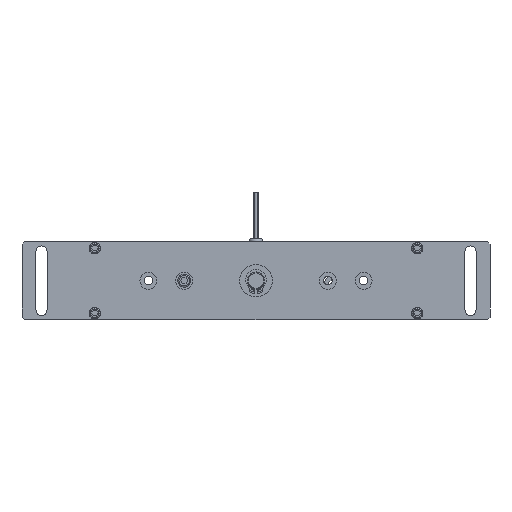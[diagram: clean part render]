
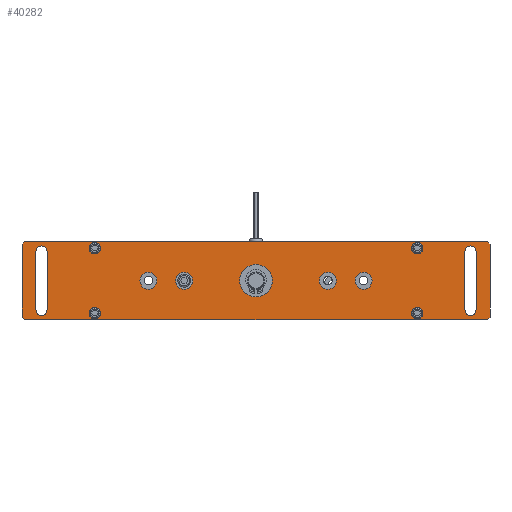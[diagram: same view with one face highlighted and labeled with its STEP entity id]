
A CAD part, front view. The second image highlights one B-rep face of the part: STEP entity #40282.
In plain terms, the highlighted planar face has unit normal (0, -1, 0) as drawn and (0, 0, 1) by its records, which use the part's own axes.
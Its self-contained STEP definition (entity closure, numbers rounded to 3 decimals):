
#1415=CIRCLE('',#57016,4.25);
#1416=CIRCLE('',#57017,4.25);
#1417=CIRCLE('',#57018,4.25);
#1418=CIRCLE('',#57019,4.25);
#1419=CIRCLE('',#57020,6.5);
#1420=CIRCLE('',#57021,6.5);
#1421=CIRCLE('',#57022,6.5);
#1422=CIRCLE('',#57023,6.5);
#1423=CIRCLE('',#57024,12.5);
#1424=CIRCLE('',#57025,4.35);
#1425=CIRCLE('',#57026,4.35);
#1426=CIRCLE('',#57027,4.35);
#1427=CIRCLE('',#57028,4.35);
#3075=ORIENTED_EDGE('',*,*,#15563,.F.);
#3076=ORIENTED_EDGE('',*,*,#15564,.F.);
#3077=ORIENTED_EDGE('',*,*,#15565,.F.);
#3078=ORIENTED_EDGE('',*,*,#15566,.F.);
#3079=ORIENTED_EDGE('',*,*,#15567,.F.);
#3080=ORIENTED_EDGE('',*,*,#15568,.F.);
#3081=ORIENTED_EDGE('',*,*,#15569,.F.);
#3082=ORIENTED_EDGE('',*,*,#15570,.F.);
#3083=ORIENTED_EDGE('',*,*,#15571,.T.);
#3084=ORIENTED_EDGE('',*,*,#15572,.T.);
#3085=ORIENTED_EDGE('',*,*,#15573,.T.);
#3086=ORIENTED_EDGE('',*,*,#15574,.T.);
#3087=ORIENTED_EDGE('',*,*,#15575,.T.);
#3088=ORIENTED_EDGE('',*,*,#15576,.T.);
#3089=ORIENTED_EDGE('',*,*,#15577,.T.);
#3090=ORIENTED_EDGE('',*,*,#15578,.T.);
#3091=ORIENTED_EDGE('',*,*,#15579,.T.);
#3092=ORIENTED_EDGE('',*,*,#15540,.T.);
#3093=ORIENTED_EDGE('',*,*,#15580,.T.);
#3094=ORIENTED_EDGE('',*,*,#15526,.T.);
#3095=ORIENTED_EDGE('',*,*,#15581,.T.);
#3096=ORIENTED_EDGE('',*,*,#15532,.T.);
#3097=ORIENTED_EDGE('',*,*,#15582,.T.);
#3098=ORIENTED_EDGE('',*,*,#15536,.T.);
#3099=ORIENTED_EDGE('',*,*,#15583,.T.);
#15526=EDGE_CURVE('',#21772,#21773,#25975,.T.);
#15532=EDGE_CURVE('',#21779,#21778,#25981,.T.);
#15536=EDGE_CURVE('',#21783,#21782,#25985,.T.);
#15540=EDGE_CURVE('',#21787,#21786,#25989,.T.);
#15563=EDGE_CURVE('',#21805,#21806,#1415,.T.);
#15564=EDGE_CURVE('',#21807,#21805,#25999,.T.);
#15565=EDGE_CURVE('',#21808,#21807,#1416,.T.);
#15566=EDGE_CURVE('',#21806,#21808,#26000,.T.);
#15567=EDGE_CURVE('',#21809,#21810,#1417,.T.);
#15568=EDGE_CURVE('',#21811,#21809,#26001,.T.);
#15569=EDGE_CURVE('',#21812,#21811,#1418,.T.);
#15570=EDGE_CURVE('',#21810,#21812,#26002,.T.);
#15571=EDGE_CURVE('',#21813,#21813,#1419,.T.);
#15572=EDGE_CURVE('',#21814,#21814,#1420,.T.);
#15573=EDGE_CURVE('',#21815,#21815,#1421,.T.);
#15574=EDGE_CURVE('',#21816,#21816,#1422,.T.);
#15575=EDGE_CURVE('',#21817,#21817,#1423,.T.);
#15576=EDGE_CURVE('',#21818,#21818,#1424,.T.);
#15577=EDGE_CURVE('',#21819,#21819,#1425,.T.);
#15578=EDGE_CURVE('',#21820,#21820,#1426,.T.);
#15579=EDGE_CURVE('',#21821,#21821,#1427,.T.);
#15580=EDGE_CURVE('',#21786,#21772,#26003,.F.);
#15581=EDGE_CURVE('',#21773,#21779,#26004,.F.);
#15582=EDGE_CURVE('',#21778,#21783,#26005,.F.);
#15583=EDGE_CURVE('',#21782,#21787,#26006,.F.);
#21772=VERTEX_POINT('',#73197);
#21773=VERTEX_POINT('',#73198);
#21778=VERTEX_POINT('',#73209);
#21779=VERTEX_POINT('',#73211);
#21782=VERTEX_POINT('',#73218);
#21783=VERTEX_POINT('',#73220);
#21786=VERTEX_POINT('',#73227);
#21787=VERTEX_POINT('',#73229);
#21805=VERTEX_POINT('',#73272);
#21806=VERTEX_POINT('',#73273);
#21807=VERTEX_POINT('',#73275);
#21808=VERTEX_POINT('',#73277);
#21809=VERTEX_POINT('',#73280);
#21810=VERTEX_POINT('',#73281);
#21811=VERTEX_POINT('',#73283);
#21812=VERTEX_POINT('',#73285);
#21813=VERTEX_POINT('',#73288);
#21814=VERTEX_POINT('',#73290);
#21815=VERTEX_POINT('',#73292);
#21816=VERTEX_POINT('',#73294);
#21817=VERTEX_POINT('',#73296);
#21818=VERTEX_POINT('',#73298);
#21819=VERTEX_POINT('',#73300);
#21820=VERTEX_POINT('',#73302);
#21821=VERTEX_POINT('',#73304);
#25975=LINE('',#73196,#30209);
#25981=LINE('',#73210,#30215);
#25985=LINE('',#73219,#30219);
#25989=LINE('',#73228,#30223);
#25999=LINE('',#73274,#30233);
#26000=LINE('',#73278,#30234);
#26001=LINE('',#73282,#30235);
#26002=LINE('',#73286,#30236);
#26003=LINE('',#73305,#30237);
#26004=LINE('',#73306,#30238);
#26005=LINE('',#73307,#30239);
#26006=LINE('',#73308,#30240);
#30209=VECTOR('',#60988,1000.);
#30215=VECTOR('',#60996,1000.);
#30219=VECTOR('',#61002,1000.);
#30223=VECTOR('',#61008,1000.);
#30233=VECTOR('',#61050,1000.);
#30234=VECTOR('',#61053,1000.);
#30235=VECTOR('',#61056,1000.);
#30236=VECTOR('',#61059,1000.);
#30237=VECTOR('',#61078,1000.);
#30238=VECTOR('',#61079,1000.);
#30239=VECTOR('',#61080,1000.);
#30240=VECTOR('',#61081,1000.);
#34459=EDGE_LOOP('',(#3075,#3076,#3077,#3078));
#34460=EDGE_LOOP('',(#3079,#3080,#3081,#3082));
#34461=EDGE_LOOP('',(#3083));
#34462=EDGE_LOOP('',(#3084));
#34463=EDGE_LOOP('',(#3085));
#34464=EDGE_LOOP('',(#3086));
#34465=EDGE_LOOP('',(#3087));
#34466=EDGE_LOOP('',(#3088));
#34467=EDGE_LOOP('',(#3089));
#34468=EDGE_LOOP('',(#3090));
#34469=EDGE_LOOP('',(#3091));
#34470=EDGE_LOOP('',(#3092,#3093,#3094,#3095,#3096,#3097,#3098,#3099));
#36757=FACE_BOUND('',#34459,.T.);
#36758=FACE_BOUND('',#34460,.T.);
#36759=FACE_BOUND('',#34461,.T.);
#36760=FACE_BOUND('',#34462,.T.);
#36761=FACE_BOUND('',#34463,.T.);
#36762=FACE_BOUND('',#34464,.T.);
#36763=FACE_BOUND('',#34465,.T.);
#36764=FACE_BOUND('',#34466,.T.);
#36765=FACE_BOUND('',#34467,.T.);
#36766=FACE_BOUND('',#34468,.T.);
#36767=FACE_BOUND('',#34469,.T.);
#36768=FACE_BOUND('',#34470,.T.);
#39045=PLANE('',#57015);
#40282=ADVANCED_FACE('',(#36757,#36758,#36759,#36760,#36761,#36762,#36763,
#36764,#36765,#36766,#36767,#36768),#39045,.T.);
#57015=AXIS2_PLACEMENT_3D('',#73270,#61046,#61047);
#57016=AXIS2_PLACEMENT_3D('',#73271,#61048,#61049);
#57017=AXIS2_PLACEMENT_3D('',#73276,#61051,#61052);
#57018=AXIS2_PLACEMENT_3D('',#73279,#61054,#61055);
#57019=AXIS2_PLACEMENT_3D('',#73284,#61057,#61058);
#57020=AXIS2_PLACEMENT_3D('',#73287,#61060,#61061);
#57021=AXIS2_PLACEMENT_3D('',#73289,#61062,#61063);
#57022=AXIS2_PLACEMENT_3D('',#73291,#61064,#61065);
#57023=AXIS2_PLACEMENT_3D('',#73293,#61066,#61067);
#57024=AXIS2_PLACEMENT_3D('',#73295,#61068,#61069);
#57025=AXIS2_PLACEMENT_3D('',#73297,#61070,#61071);
#57026=AXIS2_PLACEMENT_3D('',#73299,#61072,#61073);
#57027=AXIS2_PLACEMENT_3D('',#73301,#61074,#61075);
#57028=AXIS2_PLACEMENT_3D('',#73303,#61076,#61077);
#60988=DIRECTION('',(0.,-1.,0.));
#60996=DIRECTION('',(1.,0.,0.));
#61002=DIRECTION('',(0.,1.,0.));
#61008=DIRECTION('',(-1.,0.,0.));
#61046=DIRECTION('',(0.,0.,1.));
#61047=DIRECTION('',(1.,0.,0.));
#61048=DIRECTION('',(0.,0.,1.));
#61049=DIRECTION('',(0.,-1.,0.));
#61050=DIRECTION('',(0.,1.,0.));
#61051=DIRECTION('',(0.,0.,1.));
#61052=DIRECTION('',(-1.,0.,0.));
#61053=DIRECTION('',(0.,-1.,0.));
#61054=DIRECTION('',(0.,0.,1.));
#61055=DIRECTION('',(0.,-1.,0.));
#61056=DIRECTION('',(0.,1.,0.));
#61057=DIRECTION('',(0.,0.,1.));
#61058=DIRECTION('',(-1.,0.,0.));
#61059=DIRECTION('',(0.,-1.,0.));
#61060=DIRECTION('',(0.,0.,-1.));
#61061=DIRECTION('',(0.,-1.,0.));
#61062=DIRECTION('',(0.,0.,-1.));
#61063=DIRECTION('',(0.,-1.,0.));
#61064=DIRECTION('',(0.,0.,-1.));
#61065=DIRECTION('',(0.,-1.,0.));
#61066=DIRECTION('',(0.,0.,-1.));
#61067=DIRECTION('',(0.,-1.,0.));
#61068=DIRECTION('',(0.,0.,-1.));
#61069=DIRECTION('',(0.,-1.,0.));
#61070=DIRECTION('',(0.,0.,-1.));
#61071=DIRECTION('',(0.,-1.,0.));
#61072=DIRECTION('',(0.,0.,-1.));
#61073=DIRECTION('',(0.,-1.,0.));
#61074=DIRECTION('',(0.,0.,-1.));
#61075=DIRECTION('',(0.,-1.,0.));
#61076=DIRECTION('',(0.,0.,-1.));
#61077=DIRECTION('',(0.,-1.,0.));
#61078=DIRECTION('',(0.707,0.707,0.));
#61079=DIRECTION('',(-0.707,0.707,0.));
#61080=DIRECTION('',(-0.707,-0.707,0.));
#61081=DIRECTION('',(0.707,-0.707,0.));
#73196=CARTESIAN_POINT('',(-180.,30.,0.));
#73197=CARTESIAN_POINT('',(-180.,28.,0.));
#73198=CARTESIAN_POINT('',(-180.,-28.,0.));
#73209=CARTESIAN_POINT('',(178.,-30.,0.));
#73210=CARTESIAN_POINT('',(-180.,-30.,0.));
#73211=CARTESIAN_POINT('',(-178.,-30.,0.));
#73218=CARTESIAN_POINT('',(180.,28.,0.));
#73219=CARTESIAN_POINT('',(180.,-30.,0.));
#73220=CARTESIAN_POINT('',(180.,-28.,0.));
#73227=CARTESIAN_POINT('',(-178.,30.,0.));
#73228=CARTESIAN_POINT('',(180.,30.,0.));
#73229=CARTESIAN_POINT('',(178.,30.,0.));
#73270=CARTESIAN_POINT('',(-180.,-30.,0.));
#73271=CARTESIAN_POINT('',(165.,22.5,0.));
#73272=CARTESIAN_POINT('',(169.25,22.5,0.));
#73273=CARTESIAN_POINT('',(160.75,22.5,0.));
#73274=CARTESIAN_POINT('',(169.25,-22.5,0.));
#73275=CARTESIAN_POINT('',(169.25,-22.5,0.));
#73276=CARTESIAN_POINT('',(165.,-22.5,0.));
#73277=CARTESIAN_POINT('',(160.75,-22.5,0.));
#73278=CARTESIAN_POINT('',(160.75,22.5,0.));
#73279=CARTESIAN_POINT('',(-165.,22.5,0.));
#73280=CARTESIAN_POINT('',(-160.75,22.5,0.));
#73281=CARTESIAN_POINT('',(-169.25,22.5,0.));
#73282=CARTESIAN_POINT('',(-160.75,-22.5,0.));
#73283=CARTESIAN_POINT('',(-160.75,-22.5,0.));
#73284=CARTESIAN_POINT('',(-165.,-22.5,0.));
#73285=CARTESIAN_POINT('',(-169.25,-22.5,0.));
#73286=CARTESIAN_POINT('',(-169.25,22.5,0.));
#73287=CARTESIAN_POINT('',(-82.75,0.,0.));
#73288=CARTESIAN_POINT('',(-82.75,-6.5,0.));
#73289=CARTESIAN_POINT('',(82.75,0.,0.));
#73290=CARTESIAN_POINT('',(82.75,-6.5,0.));
#73291=CARTESIAN_POINT('',(55.25,0.,0.));
#73292=CARTESIAN_POINT('',(55.25,-6.5,0.));
#73293=CARTESIAN_POINT('',(-55.25,0.,0.));
#73294=CARTESIAN_POINT('',(-55.25,-6.5,0.));
#73295=CARTESIAN_POINT('',(0.,0.,0.));
#73296=CARTESIAN_POINT('',(0.,-12.5,0.));
#73297=CARTESIAN_POINT('',(-124.,-25.,0.));
#73298=CARTESIAN_POINT('',(-124.,-29.35,0.));
#73299=CARTESIAN_POINT('',(124.,-25.,0.));
#73300=CARTESIAN_POINT('',(124.,-29.35,0.));
#73301=CARTESIAN_POINT('',(124.,25.,0.));
#73302=CARTESIAN_POINT('',(124.,20.65,0.));
#73303=CARTESIAN_POINT('',(-124.,25.,0.));
#73304=CARTESIAN_POINT('',(-124.,20.65,0.));
#73305=CARTESIAN_POINT('',(-209.,-1.,0.));
#73306=CARTESIAN_POINT('',(-179.,-29.,0.));
#73307=CARTESIAN_POINT('',(-1.,-209.,0.));
#73308=CARTESIAN_POINT('',(29.,179.,0.));
